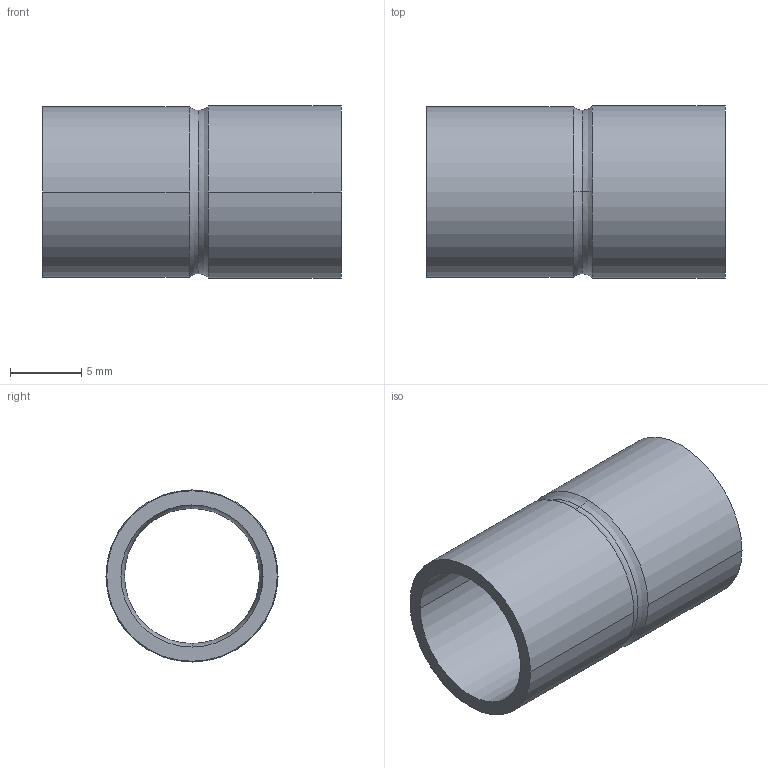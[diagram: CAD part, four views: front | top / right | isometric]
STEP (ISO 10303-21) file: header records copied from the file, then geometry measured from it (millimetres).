
FILE_DESCRIPTION((''),'2;1');
FILE_NAME('G:\Technics\CAD\Bauteile\Serie 15243\152431210.stp','2005-10-21T12:49:30',('boden'),(''),'Autodesk Inventor 8','Autodesk Inventor 8','');
FILE_SCHEMA(('AUTOMOTIVE_DESIGN { 1 0 10303 214 1 1 1 1 }'));
Length unit declared in the file: millimetre
Products named in the file (1): 152431210
Bounding box: 21 x 12.11 x 12.11 mm (x, y, z)
Volume: 731.1 mm3; surface area: 1532.1 mm2
Topology: 1 solids, 1 shells, 18 faces, 44 edges, 28 vertices
Faces by surface type: cylinder 8, torus 4, bspline 4, plane 2
Entity records: 739 total; most frequent: CARTESIAN_POINT 267, DIRECTION 110, ORIENTED_EDGE 88, AXIS2_PLACEMENT_3D 51, EDGE_CURVE 44, CIRCLE 36, VERTEX_POINT 28, EDGE_LOOP 20
